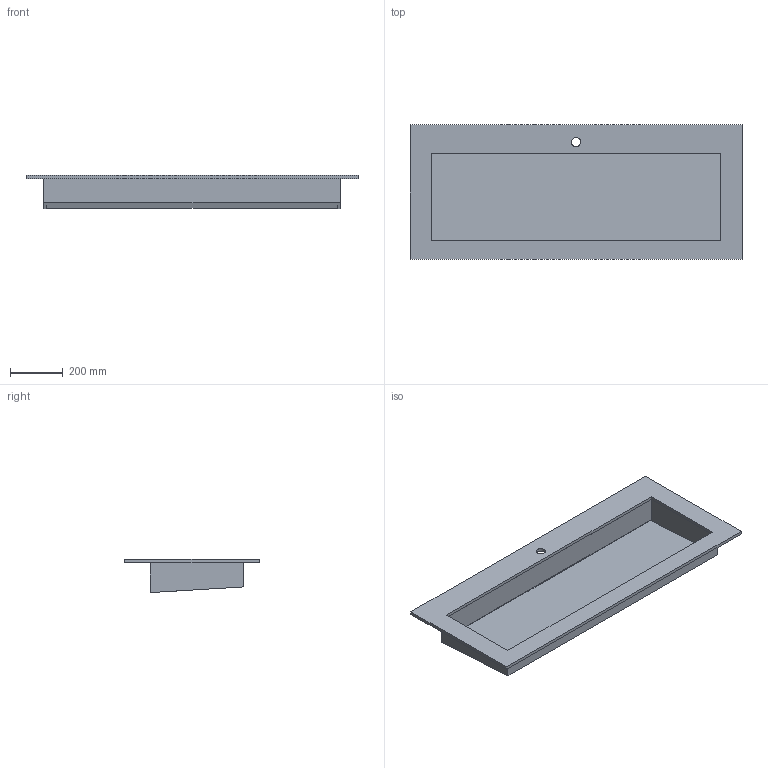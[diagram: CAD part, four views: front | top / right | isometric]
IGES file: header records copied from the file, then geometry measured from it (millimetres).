
Start section: Data from Parasolid IGES Translator 19.0.9, Copyright(c) 2006 Siemens PL M Software. All Rights Reserved.
Global section: file name: noorth-top-H 1,2 D 51,3 W 126_4649.igs; native system: By Siemens PLM Incorporated; preprocessor: XPlus GENERIC/IGES 19.0.9; author: Noname; organization: Noname; date: 20200603.113304; units: metre
Bounding box: 1260 x 512 x 125.71 mm (x, y, z)
Volume: 11624966.9 mm3; surface area: 1986390.3 mm2
Topology: 2 solids, 2 shells, 30 faces, 81 edges, 54 vertices
Faces by surface type: plane 29, cylinder 1
Full cylindrical faces by diameter (mm): 34.9 x1
